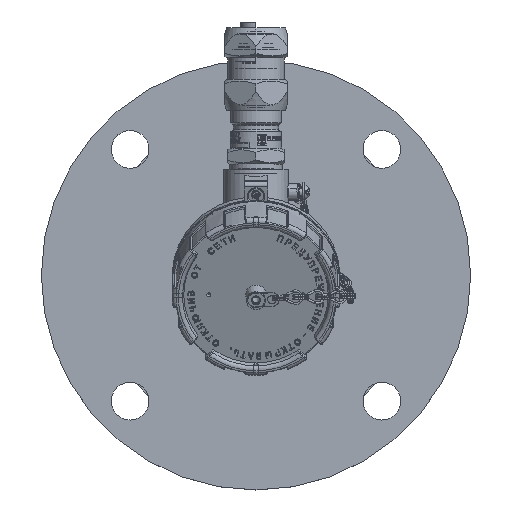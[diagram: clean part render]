
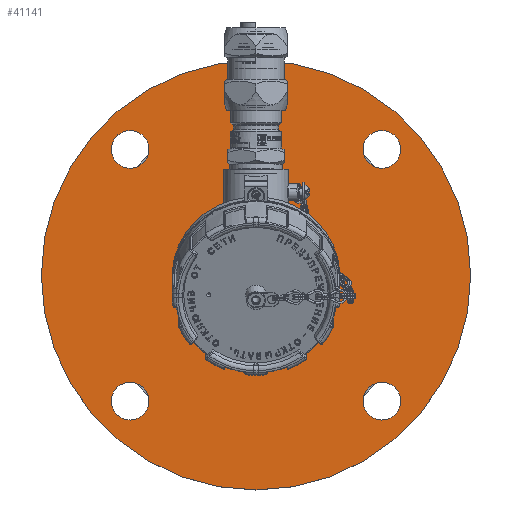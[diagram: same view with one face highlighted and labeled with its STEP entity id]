
A CAD part, top view. The second image highlights one B-rep face of the part: STEP entity #41141.
In plain terms, the highlighted planar face has unit normal (0, 0, 1).
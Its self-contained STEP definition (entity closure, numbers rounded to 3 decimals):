
#41141=ADVANCED_FACE('',(#455373,#455375,#455377,#455379,#455381,#455383),#455385,
.T.);
#455373=FACE_BOUND('',#455374,.T.);
#455374=EDGE_LOOP('',(#497958));
#455375=FACE_BOUND('',#455376,.T.);
#455376=EDGE_LOOP('',(#497959));
#455377=FACE_BOUND('',#455378,.T.);
#455378=EDGE_LOOP('',(#497960));
#455379=FACE_BOUND('',#455380,.T.);
#455380=EDGE_LOOP('',(#497961));
#455381=FACE_BOUND('',#455382,.T.);
#455382=EDGE_LOOP('',(#497962));
#455383=FACE_BOUND('',#455384,.T.);
#455384=EDGE_LOOP('',(#497963));
#455385=PLANE('',#455386);
#455386=AXIS2_PLACEMENT_3D('',#455387,#455388,#455389);
#455387=CARTESIAN_POINT('',(2.,4.,-315.313));
#455388=DIRECTION('',(0.,0.,1.));
#455389=DIRECTION('',(1.,0.,0.));
#497958=ORIENTED_EDGE('',*,*,#519256,.T.);
#497959=ORIENTED_EDGE('',*,*,#519257,.T.);
#497960=ORIENTED_EDGE('',*,*,#519258,.T.);
#497961=ORIENTED_EDGE('',*,*,#519259,.T.);
#497962=ORIENTED_EDGE('',*,*,#519260,.T.);
#497963=ORIENTED_EDGE('',*,*,#519261,.T.);
#519256=EDGE_CURVE('',#554974,#554974,#554975,.T.);
#519257=EDGE_CURVE('',#554976,#554976,#554977,.T.);
#519258=EDGE_CURVE('',#554978,#554978,#554979,.F.);
#519259=EDGE_CURVE('',#554980,#554980,#554981,.F.);
#519260=EDGE_CURVE('',#554982,#554982,#554983,.F.);
#519261=EDGE_CURVE('',#554984,#554984,#554985,.F.);
#554974=VERTEX_POINT('',#694928);
#554975=CIRCLE('',#694929,102.5);
#554976=VERTEX_POINT('',#694933);
#554977=CIRCLE('',#694934,17.);
#554978=VERTEX_POINT('',#694938);
#554979=CIRCLE('',#694939,9.);
#554980=VERTEX_POINT('',#694943);
#554981=CIRCLE('',#694944,9.);
#554982=VERTEX_POINT('',#694948);
#554983=CIRCLE('',#694949,9.);
#554984=VERTEX_POINT('',#694953);
#554985=CIRCLE('',#694954,9.);
#694928=CARTESIAN_POINT('',(104.5,4.,-315.313));
#694929=AXIS2_PLACEMENT_3D('',#694930,#694931,#694932);
#694930=CARTESIAN_POINT('',(2.,4.,-315.313));
#694931=DIRECTION('',(0.,0.,1.));
#694932=DIRECTION('',(1.,0.,0.));
#694933=CARTESIAN_POINT('',(2.,-13.,-315.313));
#694934=AXIS2_PLACEMENT_3D('',#694935,#694936,#694937);
#694935=CARTESIAN_POINT('',(2.,4.,-315.313));
#694936=DIRECTION('',(0.,0.,-1.));
#694937=DIRECTION('',(0.,-1.,0.));
#694938=CARTESIAN_POINT('',(71.104,-56.104,-315.313));
#694939=AXIS2_PLACEMENT_3D('',#694940,#694941,#694942);
#694940=CARTESIAN_POINT('',(62.104,-56.104,-315.313));
#694941=DIRECTION('',(0.,0.,1.));
#694942=DIRECTION('',(1.,0.,0.));
#694943=CARTESIAN_POINT('',(62.104,73.104,-315.313));
#694944=AXIS2_PLACEMENT_3D('',#694945,#694946,#694947);
#694945=CARTESIAN_POINT('',(62.104,64.104,-315.313));
#694946=DIRECTION('',(0.,0.,1.));
#694947=DIRECTION('',(0.,1.,0.));
#694948=CARTESIAN_POINT('',(-67.104,64.104,-315.313));
#694949=AXIS2_PLACEMENT_3D('',#694950,#694951,#694952);
#694950=CARTESIAN_POINT('',(-58.104,64.104,-315.313));
#694951=DIRECTION('',(0.,0.,1.));
#694952=DIRECTION('',(-1.,0.,0.));
#694953=CARTESIAN_POINT('',(-58.104,-65.104,-315.313));
#694954=AXIS2_PLACEMENT_3D('',#694955,#694956,#694957);
#694955=CARTESIAN_POINT('',(-58.104,-56.104,-315.313));
#694956=DIRECTION('',(0.,0.,1.));
#694957=DIRECTION('',(0.,-1.,0.));
